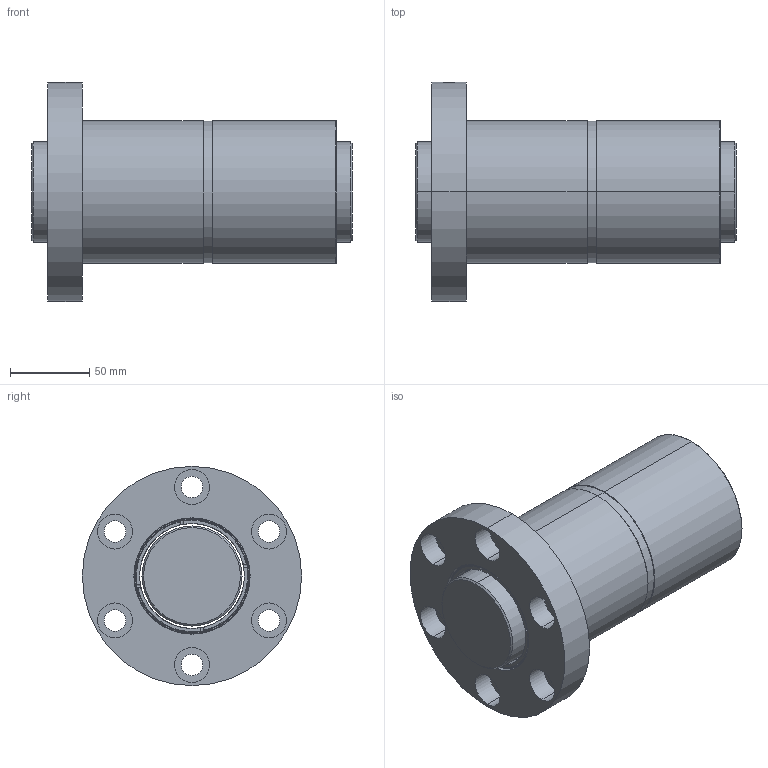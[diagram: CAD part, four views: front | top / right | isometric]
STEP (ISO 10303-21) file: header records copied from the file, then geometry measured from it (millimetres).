
FILE_DESCRIPTION (( 'STEP AP203' ), '1' );
FILE_NAME ('DFZR06310T4N-C.STEP', '2020-06-18T01:25:38', ( '' ), ( '' ), 'SwSTEP 2.0', 'SolidWorks 2013', '' );
FILE_SCHEMA (( 'CONFIG_CONTROL_DESIGN' ));
Length unit declared in the file: millimetre
Products named in the file (1): DFZR06310T4N-C
Bounding box: 202 x 138 x 138 mm (x, y, z)
Volume: 1304336.3 mm3; surface area: 175982.1 mm2
Topology: 2 solids, 2 shells, 128 faces, 304 edges, 194 vertices
Faces by surface type: cylinder 74, plane 30, torus 20, cone 4
Entity records: 4285 total; most frequent: CARTESIAN_POINT 1137, DIRECTION 692, ORIENTED_EDGE 608, AXIS2_PLACEMENT_3D 305, EDGE_CURVE 304, VERTEX_POINT 194, CIRCLE 176, EDGE_LOOP 160
